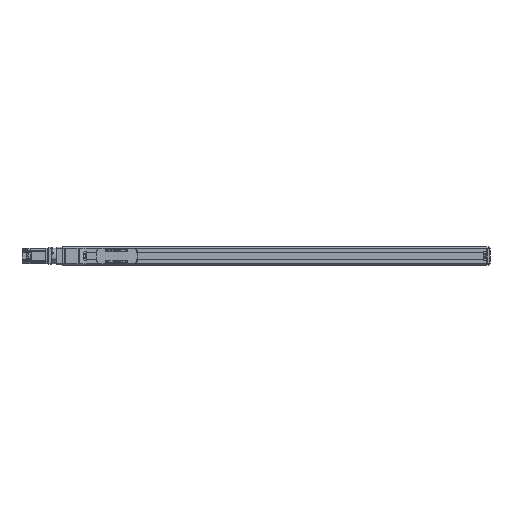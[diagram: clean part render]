
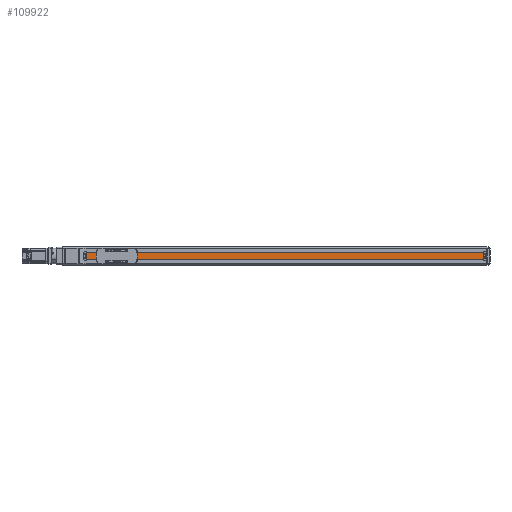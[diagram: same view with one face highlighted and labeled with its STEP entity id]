
A CAD part, top view. The second image highlights one B-rep face of the part: STEP entity #109922.
In plain terms, the highlighted planar face has unit normal (0, 0, 1) as drawn and (0, 1, 0) by its records, which use the part's own axes.
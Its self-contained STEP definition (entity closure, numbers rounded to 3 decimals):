
#109922 = ADVANCED_FACE('',(#109923),#109937,.T.);
#109923 = FACE_BOUND('',#109924,.T.);
#109924 = EDGE_LOOP('',(#109925,#109960,#109988,#110016));
#109925 = ORIENTED_EDGE('',*,*,#109926,.F.);
#109926 = EDGE_CURVE('',#109927,#109929,#109931,.T.);
#109927 = VERTEX_POINT('',#109928);
#109928 = CARTESIAN_POINT('',(-1430.5,18.,-13.));
#109929 = VERTEX_POINT('',#109930);
#109930 = CARTESIAN_POINT('',(-21.5,18.,-13.));
#109931 = SURFACE_CURVE('',#109932,(#109936,#109948),.PCURVE_S1.);
#109932 = LINE('',#109933,#109934);
#109933 = CARTESIAN_POINT('',(-1430.5,18.,-13.));
#109934 = VECTOR('',#109935,1.);
#109935 = DIRECTION('',(1.,0.,0.));
#109936 = PCURVE('',#109937,#109942);
#109937 = PLANE('',#109938);
#109938 = AXIS2_PLACEMENT_3D('',#109939,#109940,#109941);
#109939 = CARTESIAN_POINT('',(-1440.5,18.,-26.583));
#109940 = DIRECTION('',(0.,1.,0.));
#109941 = DIRECTION('',(0.,-0.,1.));
#109942 = DEFINITIONAL_REPRESENTATION('',(#109943),#109947);
#109943 = LINE('',#109944,#109945);
#109944 = CARTESIAN_POINT('',(13.583,10.));
#109945 = VECTOR('',#109946,1.);
#109946 = DIRECTION('',(0.,1.));
#109947 = ( GEOMETRIC_REPRESENTATION_CONTEXT(2) 
PARAMETRIC_REPRESENTATION_CONTEXT() REPRESENTATION_CONTEXT('2D SPACE',''
  ) );
#109948 = PCURVE('',#109949,#109954);
#109949 = PLANE('',#109950);
#109950 = AXIS2_PLACEMENT_3D('',#109951,#109952,#109953);
#109951 = CARTESIAN_POINT('',(-1430.5,18.,-13.));
#109952 = DIRECTION('',(0.,0.,1.));
#109953 = DIRECTION('',(1.,0.,-0.));
#109954 = DEFINITIONAL_REPRESENTATION('',(#109955),#109959);
#109955 = LINE('',#109956,#109957);
#109956 = CARTESIAN_POINT('',(0.,0.));
#109957 = VECTOR('',#109958,1.);
#109958 = DIRECTION('',(1.,0.));
#109959 = ( GEOMETRIC_REPRESENTATION_CONTEXT(2) 
PARAMETRIC_REPRESENTATION_CONTEXT() REPRESENTATION_CONTEXT('2D SPACE',''
  ) );
#109960 = ORIENTED_EDGE('',*,*,#109961,.T.);
#109961 = EDGE_CURVE('',#109927,#109962,#109964,.T.);
#109962 = VERTEX_POINT('',#109963);
#109963 = CARTESIAN_POINT('',(-1430.5,18.,13.));
#109964 = SURFACE_CURVE('',#109965,(#109969,#109976),.PCURVE_S1.);
#109965 = LINE('',#109966,#109967);
#109966 = CARTESIAN_POINT('',(-1430.5,18.,-26.583));
#109967 = VECTOR('',#109968,1.);
#109968 = DIRECTION('',(0.,0.,1.));
#109969 = PCURVE('',#109937,#109970);
#109970 = DEFINITIONAL_REPRESENTATION('',(#109971),#109975);
#109971 = LINE('',#109972,#109973);
#109972 = CARTESIAN_POINT('',(0.,10.));
#109973 = VECTOR('',#109974,1.);
#109974 = DIRECTION('',(1.,0.));
#109975 = ( GEOMETRIC_REPRESENTATION_CONTEXT(2) 
PARAMETRIC_REPRESENTATION_CONTEXT() REPRESENTATION_CONTEXT('2D SPACE',''
  ) );
#109976 = PCURVE('',#109977,#109982);
#109977 = PLANE('',#109978);
#109978 = AXIS2_PLACEMENT_3D('',#109979,#109980,#109981);
#109979 = CARTESIAN_POINT('',(-1430.5,0.,0.));
#109980 = DIRECTION('',(1.,0.,0.));
#109981 = DIRECTION('',(0.,0.,-1.));
#109982 = DEFINITIONAL_REPRESENTATION('',(#109983),#109987);
#109983 = LINE('',#109984,#109985);
#109984 = CARTESIAN_POINT('',(26.583,18.));
#109985 = VECTOR('',#109986,1.);
#109986 = DIRECTION('',(-1.,0.));
#109987 = ( GEOMETRIC_REPRESENTATION_CONTEXT(2) 
PARAMETRIC_REPRESENTATION_CONTEXT() REPRESENTATION_CONTEXT('2D SPACE',''
  ) );
#109988 = ORIENTED_EDGE('',*,*,#109989,.T.);
#109989 = EDGE_CURVE('',#109962,#109990,#109992,.T.);
#109990 = VERTEX_POINT('',#109991);
#109991 = CARTESIAN_POINT('',(-21.5,18.,13.));
#109992 = SURFACE_CURVE('',#109993,(#109997,#110004),.PCURVE_S1.);
#109993 = LINE('',#109994,#109995);
#109994 = CARTESIAN_POINT('',(-1430.5,18.,13.));
#109995 = VECTOR('',#109996,1.);
#109996 = DIRECTION('',(1.,0.,0.));
#109997 = PCURVE('',#109937,#109998);
#109998 = DEFINITIONAL_REPRESENTATION('',(#109999),#110003);
#109999 = LINE('',#110000,#110001);
#110000 = CARTESIAN_POINT('',(39.583,10.));
#110001 = VECTOR('',#110002,1.);
#110002 = DIRECTION('',(0.,1.));
#110003 = ( GEOMETRIC_REPRESENTATION_CONTEXT(2) 
PARAMETRIC_REPRESENTATION_CONTEXT() REPRESENTATION_CONTEXT('2D SPACE',''
  ) );
#110004 = PCURVE('',#110005,#110010);
#110005 = PLANE('',#110006);
#110006 = AXIS2_PLACEMENT_3D('',#110007,#110008,#110009);
#110007 = CARTESIAN_POINT('',(-1430.5,15.,13.));
#110008 = DIRECTION('',(0.,0.,-1.));
#110009 = DIRECTION('',(-1.,0.,0.));
#110010 = DEFINITIONAL_REPRESENTATION('',(#110011),#110015);
#110011 = LINE('',#110012,#110013);
#110012 = CARTESIAN_POINT('',(0.,3.));
#110013 = VECTOR('',#110014,1.);
#110014 = DIRECTION('',(-1.,0.));
#110015 = ( GEOMETRIC_REPRESENTATION_CONTEXT(2) 
PARAMETRIC_REPRESENTATION_CONTEXT() REPRESENTATION_CONTEXT('2D SPACE',''
  ) );
#110016 = ORIENTED_EDGE('',*,*,#110017,.T.);
#110017 = EDGE_CURVE('',#109990,#109929,#110018,.T.);
#110018 = SURFACE_CURVE('',#110019,(#110023,#110030),.PCURVE_S1.);
#110019 = LINE('',#110020,#110021);
#110020 = CARTESIAN_POINT('',(-21.5,18.,-26.583));
#110021 = VECTOR('',#110022,1.);
#110022 = DIRECTION('',(0.,0.,-1.));
#110023 = PCURVE('',#109937,#110024);
#110024 = DEFINITIONAL_REPRESENTATION('',(#110025),#110029);
#110025 = LINE('',#110026,#110027);
#110026 = CARTESIAN_POINT('',(0.,1419.));
#110027 = VECTOR('',#110028,1.);
#110028 = DIRECTION('',(-1.,0.));
#110029 = ( GEOMETRIC_REPRESENTATION_CONTEXT(2) 
PARAMETRIC_REPRESENTATION_CONTEXT() REPRESENTATION_CONTEXT('2D SPACE',''
  ) );
#110030 = PCURVE('',#110031,#110036);
#110031 = PLANE('',#110032);
#110032 = AXIS2_PLACEMENT_3D('',#110033,#110034,#110035);
#110033 = CARTESIAN_POINT('',(-21.5,0.,0.));
#110034 = DIRECTION('',(1.,0.,0.));
#110035 = DIRECTION('',(0.,0.,-1.));
#110036 = DEFINITIONAL_REPRESENTATION('',(#110037),#110041);
#110037 = LINE('',#110038,#110039);
#110038 = CARTESIAN_POINT('',(26.583,18.));
#110039 = VECTOR('',#110040,1.);
#110040 = DIRECTION('',(1.,0.));
#110041 = ( GEOMETRIC_REPRESENTATION_CONTEXT(2) 
PARAMETRIC_REPRESENTATION_CONTEXT() REPRESENTATION_CONTEXT('2D SPACE',''
  ) );
